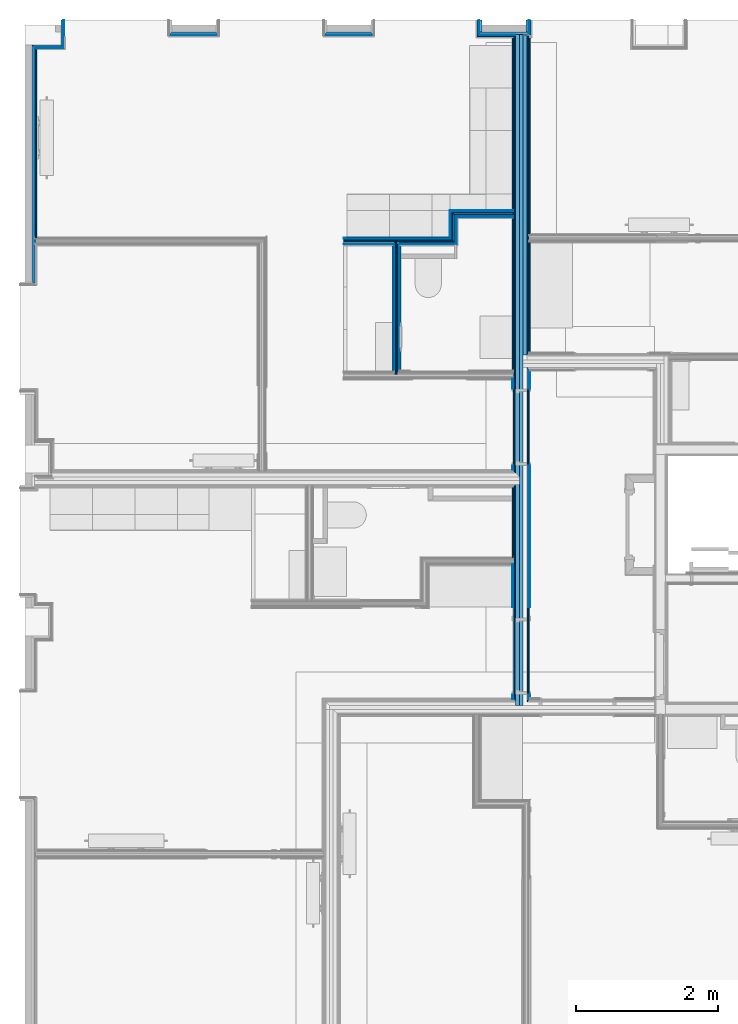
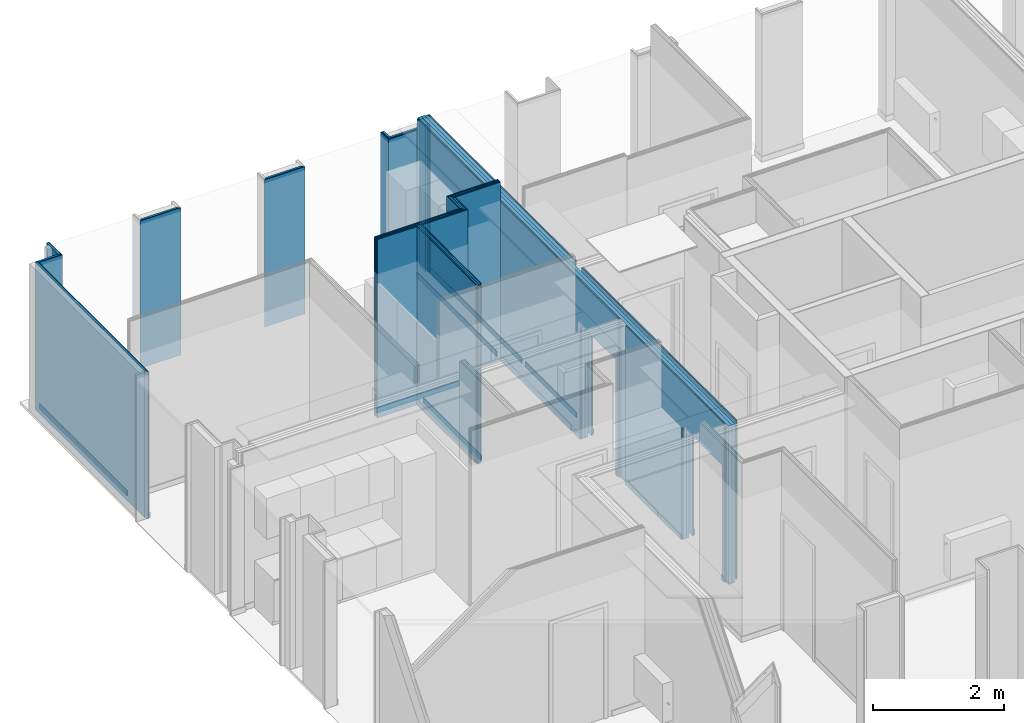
# One storey, part 14 of 64: 63 building element parts, 3 openings, 13 elements without a shape of their own.
"""IFC2X3 building model written with IfcOpenShell, lengths in metres."""

from ifc_helpers import new_model, entity, si_unit, converted_unit, derived_unit, money_unit, direction, frame, frame_2d, origin_with_axes, place, context, subcontext, project, spatial, polyline, rectangle, outline, extrude, material, type_object, element, aggregate, save


model = new_model("IFC2X3")

# Units and contexts
model_context = context("Model", 3, precision=1e-05, world=origin_with_axes(), true_north=direction((0.0, 1.0)))
body_context = subcontext(model_context, "Body", "Model", "MODEL_VIEW", scale=1.0)
ifc_project = project(units=[si_unit("LENGTHUNIT", "METRE"), si_unit("AREAUNIT", "SQUARE_METRE"), si_unit("VOLUMEUNIT", "CUBIC_METRE"), si_unit("ABSORBEDDOSEUNIT", "GRAY"), si_unit("AMOUNTOFSUBSTANCEUNIT", "MOLE"), si_unit("DOSEEQUIVALENTUNIT", "SIEVERT"), si_unit("ELECTRICCAPACITANCEUNIT", "FARAD"), si_unit("ELECTRICCHARGEUNIT", "COULOMB"), si_unit("ELECTRICCONDUCTANCEUNIT", "SIEMENS"), si_unit("ELECTRICCURRENTUNIT", "AMPERE"), si_unit("ELECTRICRESISTANCEUNIT", "OHM"), si_unit("ELECTRICVOLTAGEUNIT", "VOLT"), si_unit("ENERGYUNIT", "JOULE"), si_unit("FORCEUNIT", "NEWTON"), si_unit("FREQUENCYUNIT", "HERTZ"), si_unit("ILLUMINANCEUNIT", "LUX"), si_unit("INDUCTANCEUNIT", "HENRY"), si_unit("LUMINOUSFLUXUNIT", "LUMEN"), si_unit("LUMINOUSINTENSITYUNIT", "CANDELA"), si_unit("MAGNETICFLUXDENSITYUNIT", "TESLA"), si_unit("MAGNETICFLUXUNIT", "WEBER"), si_unit("MASSUNIT", "GRAM"), converted_unit("PLANEANGLEUNIT", "degree", entity("IfcReal", 0.0174532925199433), si_unit("PLANEANGLEUNIT", "RADIAN"), dimensions=[0, 0, 0, 0, 0, 0, 0]), si_unit("POWERUNIT", "WATT"), si_unit("PRESSUREUNIT", "PASCAL"), si_unit("RADIOACTIVITYUNIT", "BECQUEREL"), si_unit("SOLIDANGLEUNIT", "STERADIAN"), si_unit("THERMODYNAMICTEMPERATUREUNIT", "KELVIN"), si_unit("TIMEUNIT", "SECOND"), derived_unit("ACCELERATIONUNIT", [(si_unit("LENGTHUNIT", "METRE"), 1), (si_unit("TIMEUNIT", "SECOND"), -2)]), derived_unit("ANGULARVELOCITYUNIT", [(converted_unit("PLANEANGLEUNIT", "degree", entity("IfcReal", 0.0174532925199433), si_unit("PLANEANGLEUNIT", "RADIAN"), dimensions=[0, 0, 0, 0, 0, 0, 0]), 1), (si_unit("TIMEUNIT", "SECOND"), -1)]), derived_unit("CURVATUREUNIT", [(converted_unit("PLANEANGLEUNIT", "degree", entity("IfcReal", 0.0174532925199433), si_unit("PLANEANGLEUNIT", "RADIAN"), dimensions=[0, 0, 0, 0, 0, 0, 0]), 1), (si_unit("LENGTHUNIT", "METRE"), -1)]), derived_unit("DYNAMICVISCOSITYUNIT", [(si_unit("PRESSUREUNIT", "PASCAL"), 1), (si_unit("TIMEUNIT", "SECOND"), 1)]), derived_unit("HEATFLUXDENSITYUNIT", [(si_unit("POWERUNIT", "WATT"), 1), (si_unit("LENGTHUNIT", "METRE"), -2)]), derived_unit("HEATINGVALUEUNIT", [(si_unit("ENERGYUNIT", "JOULE"), 1), (si_unit("MASSUNIT", "GRAM"), -1)]), derived_unit("INTEGERCOUNTRATEUNIT", [(si_unit("TIMEUNIT", "SECOND"), -1)]), derived_unit("IONCONCENTRATIONUNIT", [(si_unit("MASSUNIT", "GRAM"), 1), (si_unit("VOLUMEUNIT", "CUBIC_METRE"), -1)]), derived_unit("ISOTHERMALMOISTURECAPACITYUNIT", [(si_unit("VOLUMEUNIT", "CUBIC_METRE"), 1), (si_unit("MASSUNIT", "GRAM"), -1)]), derived_unit("KINEMATICVISCOSITYUNIT", [(si_unit("AREAUNIT", "SQUARE_METRE"), 1), (si_unit("TIMEUNIT", "SECOND"), -1)]), derived_unit("LINEARFORCEUNIT", [(si_unit("FORCEUNIT", "NEWTON"), 1), (si_unit("LENGTHUNIT", "METRE"), -1)]), derived_unit("LINEARMOMENTUNIT", [(si_unit("FORCEUNIT", "NEWTON"), 1), (si_unit("LENGTHUNIT", "METRE"), -1)]), derived_unit("LINEARSTIFFNESSUNIT", [(si_unit("FORCEUNIT", "NEWTON"), 1), (si_unit("LENGTHUNIT", "METRE"), -1)]), derived_unit("LINEARVELOCITYUNIT", [(si_unit("LENGTHUNIT", "METRE"), 1), (si_unit("TIMEUNIT", "SECOND"), -1)]), derived_unit("LUMINOUSINTENSITYDISTRIBUTIONUNIT", [(si_unit("LUMINOUSINTENSITYUNIT", "CANDELA"), 1), (si_unit("LUMINOUSFLUXUNIT", "LUMEN"), -1)]), derived_unit("MASSDENSITYUNIT", [(si_unit("MASSUNIT", "GRAM"), 1), (si_unit("VOLUMEUNIT", "CUBIC_METRE"), -1)]), derived_unit("MASSFLOWRATEUNIT", [(si_unit("MASSUNIT", "GRAM"), 1), (si_unit("TIMEUNIT", "SECOND"), -1)]), derived_unit("MASSPERLENGTHUNIT", [(si_unit("MASSUNIT", "GRAM"), 1), (si_unit("LENGTHUNIT", "METRE"), -1)]), derived_unit("MODULUSOFELASTICITYUNIT", [(si_unit("FORCEUNIT", "NEWTON"), 1), (si_unit("AREAUNIT", "SQUARE_METRE"), -1)]), derived_unit("MODULUSOFLINEARSUBGRADEREACTIONUNIT", [(si_unit("FORCEUNIT", "NEWTON"), 1), (si_unit("LENGTHUNIT", "METRE"), -2)]), derived_unit("MODULUSOFROTATIONALSUBGRADEREACTIONUNIT", [(si_unit("FORCEUNIT", "NEWTON"), 1), (si_unit("LENGTHUNIT", "METRE"), 1)]), derived_unit("MODULUSOFSUBGRADEREACTIONUNIT", [(si_unit("FORCEUNIT", "NEWTON"), 1), (si_unit("VOLUMEUNIT", "CUBIC_METRE"), -1)]), derived_unit("MOISTUREDIFFUSIVITYUNIT", [(si_unit("VOLUMEUNIT", "CUBIC_METRE"), 1), (si_unit("TIMEUNIT", "SECOND"), -1)]), derived_unit("MOLECULARWEIGHTUNIT", [(si_unit("MASSUNIT", "GRAM"), 1), (si_unit("AMOUNTOFSUBSTANCEUNIT", "MOLE"), -1)]), derived_unit("PLANARFORCEUNIT", [(si_unit("FORCEUNIT", "NEWTON"), 1), (si_unit("LENGTHUNIT", "METRE"), -2)]), derived_unit("ROTATIONALFREQUENCYUNIT", [(si_unit("TIMEUNIT", "SECOND"), -1)]), derived_unit("ROTATIONALMASSUNIT", [(si_unit("MASSUNIT", "GRAM"), 1), (si_unit("LENGTHUNIT", "METRE"), 2)]), derived_unit("ROTATIONALSTIFFNESSUNIT", [(si_unit("FORCEUNIT", "NEWTON"), 1), (si_unit("LENGTHUNIT", "METRE"), 1), (converted_unit("PLANEANGLEUNIT", "degree", entity("IfcReal", 0.0174532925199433), si_unit("PLANEANGLEUNIT", "RADIAN"), dimensions=[0, 0, 0, 0, 0, 0, 0]), -1)]), derived_unit("SECTIONAREAINTEGRALUNIT", [(si_unit("LENGTHUNIT", "METRE"), 5)]), derived_unit("SECTIONMODULUSUNIT", [(si_unit("LENGTHUNIT", "METRE"), 3)]), derived_unit("SHEARMODULUSUNIT", [(si_unit("FORCEUNIT", "NEWTON"), 1), (si_unit("AREAUNIT", "SQUARE_METRE"), -1)]), derived_unit("SOUNDPOWERUNIT", [(si_unit("ENERGYUNIT", "JOULE"), 1), (si_unit("TIMEUNIT", "SECOND"), -1)]), derived_unit("SPECIFICHEATCAPACITYUNIT", [(si_unit("FORCEUNIT", "NEWTON"), 1), (si_unit("MASSUNIT", "GRAM"), -1), (si_unit("THERMODYNAMICTEMPERATUREUNIT", "KELVIN"), -1)]), derived_unit("TEMPERATUREGRADIENTUNIT", [(si_unit("THERMODYNAMICTEMPERATUREUNIT", "KELVIN"), 1), (si_unit("LENGTHUNIT", "METRE"), -1)]), derived_unit("THERMALADMITTANCEUNIT", [(si_unit("POWERUNIT", "WATT"), 1), (si_unit("AREAUNIT", "SQUARE_METRE"), -1), (si_unit("THERMODYNAMICTEMPERATUREUNIT", "KELVIN"), -1)]), derived_unit("THERMALCONDUCTANCEUNIT", [(si_unit("POWERUNIT", "WATT"), 1), (si_unit("LENGTHUNIT", "METRE"), -1), (si_unit("THERMODYNAMICTEMPERATUREUNIT", "KELVIN"), -1)]), derived_unit("THERMALEXPANSIONCOEFFICIENTUNIT", [(si_unit("THERMODYNAMICTEMPERATUREUNIT", "KELVIN"), -1)]), derived_unit("THERMALRESISTANCEUNIT", [(si_unit("AREAUNIT", "SQUARE_METRE"), 1), (si_unit("POWERUNIT", "WATT"), -1)]), derived_unit("THERMALTRANSMITTANCEUNIT", [(si_unit("POWERUNIT", "WATT"), 1), (si_unit("AREAUNIT", "SQUARE_METRE"), -1), (si_unit("THERMODYNAMICTEMPERATUREUNIT", "KELVIN"), -1)]), derived_unit("TORQUEUNIT", [(si_unit("FORCEUNIT", "NEWTON"), 1), (si_unit("LENGTHUNIT", "METRE"), 1)]), derived_unit("VAPORPERMEABILITYUNIT", [(si_unit("MASSUNIT", "GRAM"), 1), (si_unit("TIMEUNIT", "SECOND"), -1)]), derived_unit("VOLUMETRICFLOWRATEUNIT", [(si_unit("VOLUMEUNIT", "CUBIC_METRE"), 1), (si_unit("TIMEUNIT", "SECOND"), -1)]), derived_unit("WARPINGCONSTANTUNIT", [(si_unit("LENGTHUNIT", "METRE"), 6)]), derived_unit("WARPINGMOMENTUNIT", [(si_unit("FORCEUNIT", "NEWTON"), 1), (si_unit("LENGTHUNIT", "METRE"), 2)]), money_unit("GBP")], contexts=[model_context])

# Site, building, storey
site_placement = place(None, origin_with_axes())
site = spatial("IfcSite", under=ifc_project, at=site_placement, Name="Site", CompositionType="ELEMENT")
building_placement = place(site_placement, origin_with_axes())
building = spatial("IfcBuilding", under=site, at=building_placement, Name="Building01", CompositionType="ELEMENT")
storey_placement = place(building_placement, frame((0.0, 0.0, 8.64), z_axis=(0.0, 0.0, 1.0), x_axis=(1.0, 0.0, 0.0)))
storey = spatial("IfcBuildingStorey", under=building, at=storey_placement, Name="2F", CompositionType="ELEMENT", Elevation=8.64)

# Wall, building element parts
wall_type_1 = type_object("IfcWallType", Name="SHE_A-Walls_Type06d_ExternalWallInsulation_48mm", PredefinedType="NOTDEFINED")
wall_1_placement = place(storey_placement, frame((0.677, 14.8, 0.0), z_axis=(0.0, 0.0, 1.0), x_axis=(0.0, -1.0, 0.0)))
wall_1 = element("IfcWall", 1, at=wall_1_placement, inside=storey, type_object=wall_type_1, Name="6D", ObjectType="SHE_A-Walls_Type06d_ExternalWallInsulation_48mm")
ifc_material_1 = material(Name="A_BSUK_Insulation")
placement_1 = place(wall_1_placement, origin_with_axes())
building_element_part_1 = element("IfcBuildingElementPart", 2, at=placement_1, material=ifc_material_1, Name="1", context=body_context, shape_type="SweptSolid", body=[
    extrude(outline(polyline([(0.386, 0.036), (0.0, 0.036), (0.0, 0.0), (0.35, 0.0), (0.386, 0.036)])), origin_with_axes(), (0.0, 0.0, 1.0), 2.74),
])
ifc_material_2 = material(Name="A_BSUK_WallInternal_Finishes_Plasterboard")
building_element_part_2 = element("IfcBuildingElementPart", 3, at=placement_1, material=ifc_material_2, Name="2", context=body_context, shape_type="SweptSolid", body=[
    extrude(outline(polyline([(0.398, 0.048), (0.0, 0.048), (0.0, 0.035), (0.385, 0.035), (0.398, 0.048)])), origin_with_axes(), (0.0, 0.0, 1.0), 2.74),
])
aggregate(wall_1, [building_element_part_1, building_element_part_2])

wall_2_placement = place(storey_placement, frame((0.677, 14.45, 0.0), z_axis=(0.0, 0.0, 1.0), x_axis=(-1.0, 0.0, 0.0)))
wall_2 = element("IfcWall", 4, at=wall_2_placement, inside=storey, type_object=wall_type_1, Name="6D", ObjectType="SHE_A-Walls_Type06d_ExternalWallInsulation_48mm")
placement_2 = place(wall_2_placement, origin_with_axes())
building_element_part_3 = element("IfcBuildingElementPart", 5, at=placement_2, material=ifc_material_1, Name="1", context=body_context, shape_type="SweptSolid", body=[
    extrude(outline(polyline([(0.371, 0.036), (-0.036, 0.036), (0.0, 0.0), (0.407, 0.0), (0.371, 0.036)])), origin_with_axes(), (0.0, 0.0, 1.0), 2.74),
])
building_element_part_4 = element("IfcBuildingElementPart", 6, at=placement_2, material=ifc_material_2, Name="2", context=body_context, shape_type="SweptSolid", body=[
    extrude(outline(polyline([(0.359, 0.048), (-0.048, 0.048), (-0.035, 0.035), (0.372, 0.035), (0.359, 0.048)])), origin_with_axes(), (0.0, 0.0, 1.0), 2.74),
])
aggregate(wall_2, [building_element_part_3, building_element_part_4])

wall_3_placement = place(storey_placement, frame((2.867, 14.63, 0.0), z_axis=(0.0, 0.0, 1.0), x_axis=(-1.0, 0.0, 0.0)))
wall_3 = element("IfcWall", 7, at=wall_3_placement, inside=storey, type_object=wall_type_1, Name="6D", ObjectType="SHE_A-Walls_Type06d_ExternalWallInsulation_48mm")
placement_3 = place(wall_3_placement, origin_with_axes())
building_element_part_5 = element("IfcBuildingElementPart", 8, at=placement_3, material=ifc_material_1, Name="1", context=body_context, shape_type="SweptSolid", body=[
    extrude(outline(polyline([(0.66, 0.036), (-0.036, 0.036), (0.0, 0.0), (0.624, 0.0), (0.66, 0.036)])), origin_with_axes(), (0.0, 0.0, 1.0), 2.74),
])
building_element_part_6 = element("IfcBuildingElementPart", 9, at=placement_3, material=ifc_material_2, Name="2", context=body_context, shape_type="SweptSolid", body=[
    extrude(outline(polyline([(0.672, 0.048), (-0.048, 0.048), (-0.035, 0.035), (0.659, 0.035), (0.672, 0.048)])), origin_with_axes(), (0.0, 0.0, 1.0), 2.74),
])
aggregate(wall_3, [building_element_part_5, building_element_part_6])

wall_4_placement = place(storey_placement, frame((5.057, 14.63, 0.0), z_axis=(0.0, 0.0, 1.0), x_axis=(-1.0, 0.0, 0.0)))
wall_4 = element("IfcWall", 10, at=wall_4_placement, inside=storey, type_object=wall_type_1, Name="6D", ObjectType="SHE_A-Walls_Type06d_ExternalWallInsulation_48mm")
placement_4 = place(wall_4_placement, origin_with_axes())
building_element_part_7 = element("IfcBuildingElementPart", 11, at=placement_4, material=ifc_material_1, Name="1", context=body_context, shape_type="SweptSolid", body=[
    extrude(outline(polyline([(0.66, 0.036), (-0.036, 0.036), (0.0, 0.0), (0.624, 0.0), (0.66, 0.036)])), origin_with_axes(), (0.0, 0.0, 1.0), 2.74),
])
building_element_part_8 = element("IfcBuildingElementPart", 12, at=placement_4, material=ifc_material_2, Name="2", context=body_context, shape_type="SweptSolid", body=[
    extrude(outline(polyline([(0.672, 0.048), (-0.048, 0.048), (-0.035, 0.035), (0.659, 0.035), (0.672, 0.048)])), origin_with_axes(), (0.0, 0.0, 1.0), 2.74),
])
aggregate(wall_4, [building_element_part_7, building_element_part_8])

wall_5_placement = place(storey_placement, frame((0.27, 14.45, 0.0), z_axis=(0.0, 0.0, 1.0), x_axis=(0.0, -1.0, 0.0)))
wall_5 = element("IfcWall", 13, at=wall_5_placement, inside=storey, type_object=wall_type_1, Name="6D", ObjectType="SHE_A-Walls_Type06d_ExternalWallInsulation_48mm")
placement_5 = place(wall_5_placement, origin_with_axes())
building_element_part_9 = element("IfcBuildingElementPart", 14, at=placement_5, material=ifc_material_1, Name="1", context=body_context, shape_type="SweptSolid", body=[
    extrude(outline(polyline([(3.383, 0.036), (0.036, 0.036), (0.0, 0.0), (3.347, 0.0), (3.383, 0.036)])), origin_with_axes(), (0.0, 0.0, 1.0), 2.74),
])
building_element_part_10 = element("IfcBuildingElementPart", 15, at=placement_5, material=ifc_material_2, Name="2", context=body_context, shape_type="SweptSolid", body=[
    extrude(outline(polyline([(3.395, 0.048), (0.048, 0.048), (0.035, 0.035), (3.382, 0.035), (3.395, 0.048)])), origin_with_axes(), (0.0, 0.0, 1.0), 2.74),
])
ifc_material_3 = material(Name="A_BSUK_Walls_Timber")
building_element_part_11 = element("IfcBuildingElementPart", 16, at=placement_5, material=ifc_material_3, Name="3", context=body_context, shape_type="SweptSolid", body=[
    extrude(outline(polyline([(2.72433, 0.063), (0.063, 0.063), (0.048, 0.048), (2.72433, 0.048), (2.72433, 0.063)])), frame((0.0, 0.0, 0.015), z_axis=(0.0, 0.0, 1.0), x_axis=(1.0, 0.0, 0.0)), (0.0, 0.0, 1.0), 0.1),
])
aggregate(wall_5, [building_element_part_9, building_element_part_10, building_element_part_11])

wall_type_2 = type_object("IfcWallType", Name="SHE_A-Walls_Type05a_Partition_95mm_tall", PredefinedType="NOTDEFINED")
wall_6_placement = place(storey_placement, frame((6.229669, 11.66567, 0.0), z_axis=(0.0, 0.0, 1.0), x_axis=(0.0, 1.0, 0.0)))
wall_6 = element("IfcWall", 17, at=wall_6_placement, inside=storey, type_object=wall_type_2, Name="5A", ObjectType="SHE_A-Walls_Type05a_Partition_95mm_tall")
placement_6 = place(wall_6_placement, origin_with_axes())
building_element_part_12 = element("IfcBuildingElementPart", 18, at=placement_6, material=ifc_material_2, Name="2", context=body_context, shape_type="SweptSolid", body=[
    extrude(outline(polyline([(0.35, -0.023), (-0.023, -0.023), (-0.035, -0.035), (0.35, -0.035), (0.35, -0.023)])), origin_with_axes(), (0.0, 0.0, 1.0), 3.32),
])
ifc_material_4 = material(Name="Air Cavity")
building_element_part_13 = element("IfcBuildingElementPart", 19, at=placement_6, material=ifc_material_4, Name="3", context=body_context, shape_type="SweptSolid", body=[
    extrude(outline(polyline([(0.35, 0.0), (0.0, 0.0), (-0.023, -0.023), (0.35, -0.023), (0.35, 0.0)])), origin_with_axes(), (0.0, 0.0, 1.0), 3.32),
])
building_element_part_14 = element("IfcBuildingElementPart", 20, at=placement_6, material=ifc_material_1, Name="4", context=body_context, shape_type="SweptSolid", body=[
    extrude(outline(polyline([(0.41, 0.025), (0.025, 0.025), (0.0, 0.0), (0.385, 0.0), (0.41, 0.025)])), origin_with_axes(), (0.0, 0.0, 1.0), 3.32),
])
building_element_part_15 = element("IfcBuildingElementPart", 21, at=placement_6, material=ifc_material_4, Name="5", context=body_context, shape_type="SweptSolid", body=[
    extrude(outline(polyline([(0.433, 0.048), (0.048, 0.048), (0.025, 0.025), (0.41, 0.025), (0.433, 0.048)])), origin_with_axes(), (0.0, 0.0, 1.0), 3.32),
])
building_element_part_16 = element("IfcBuildingElementPart", 22, at=placement_6, material=ifc_material_2, Name="6", context=body_context, shape_type="SweptSolid", body=[
    extrude(outline(polyline([(0.445, 0.06), (0.06, 0.06), (0.048, 0.048), (0.433, 0.048), (0.445, 0.06)])), origin_with_axes(), (0.0, 0.0, 1.0), 3.32),
])
aggregate(wall_6, [building_element_part_12, building_element_part_13, building_element_part_14, building_element_part_15, building_element_part_16])

wall_7_placement = place(storey_placement, frame((6.229669, 12.05067, 0.0), z_axis=(0.0, 0.0, 1.0), x_axis=(1.0, 0.0, 0.0)))
wall_7 = element("IfcWall", 23, at=wall_7_placement, inside=storey, type_object=wall_type_2, Name="5A", ObjectType="SHE_A-Walls_Type05a_Partition_95mm_tall")
placement_7 = place(wall_7_placement, origin_with_axes())
building_element_part_17 = element("IfcBuildingElementPart", 24, at=placement_7, material=ifc_material_2, Name="2", context=body_context, shape_type="SweptSolid", body=[
    extrude(rectangle(XDim=0.812, YDim=0.012, at=frame_2d((0.429, -0.029), x_axis=(-1.0, 0.0))), origin_with_axes(), (0.0, 0.0, 1.0), 3.32),
])
building_element_part_18 = element("IfcBuildingElementPart", 25, at=placement_7, material=ifc_material_4, Name="3", context=body_context, shape_type="SweptSolid", body=[
    extrude(rectangle(XDim=0.812, YDim=0.023, at=frame_2d((0.429, -0.0115), x_axis=(-1.0, 0.0))), origin_with_axes(), (0.0, 0.0, 1.0), 3.32),
])
building_element_part_19 = element("IfcBuildingElementPart", 26, at=placement_7, material=ifc_material_1, Name="4", context=body_context, shape_type="SweptSolid", body=[
    extrude(outline(polyline([(0.835, 0.025), (-0.025, 0.025), (0.0, 0.0), (0.835, 0.0), (0.835, 0.025)])), origin_with_axes(), (0.0, 0.0, 1.0), 3.32),
])
building_element_part_20 = element("IfcBuildingElementPart", 27, at=placement_7, material=ifc_material_4, Name="5", context=body_context, shape_type="SweptSolid", body=[
    extrude(outline(polyline([(0.835, 0.048), (-0.048, 0.048), (-0.025, 0.025), (0.835, 0.025), (0.835, 0.048)])), origin_with_axes(), (0.0, 0.0, 1.0), 3.32),
])
building_element_part_21 = element("IfcBuildingElementPart", 28, at=placement_7, material=ifc_material_2, Name="6", context=body_context, shape_type="SweptSolid", body=[
    extrude(outline(polyline([(0.835, 0.06), (-0.06, 0.06), (-0.048, 0.048), (0.835, 0.048), (0.835, 0.06)])), origin_with_axes(), (0.0, 0.0, 1.0), 3.32),
])
aggregate(wall_7, [building_element_part_17, building_element_part_18, building_element_part_19, building_element_part_20, building_element_part_21])

wall_8_placement = place(storey_placement, frame((4.669669, 11.66567, 0.0), z_axis=(0.0, 0.0, 1.0), x_axis=(1.0, 0.0, 0.0)))
wall_8 = element("IfcWall", 29, at=wall_8_placement, inside=storey, type_object=wall_type_2, Name="5A", ObjectType="SHE_A-Walls_Type05a_Partition_95mm_tall")
placement_8 = place(wall_8_placement, origin_with_axes())
building_element_part_22 = element("IfcBuildingElementPart", 30, at=placement_8, material=ifc_material_2, Name="3", context=body_context, shape_type="SweptSolid", body=[
    extrude(rectangle(XDim=0.712, YDim=0.012, at=frame_2d((0.356, -0.029), x_axis=(-1.0, 0.0))), origin_with_axes(), (0.0, 0.0, 1.0), 3.32),
])
building_element_part_23 = element("IfcBuildingElementPart", 31, at=placement_8, material=ifc_material_2, Name="4", context=body_context, shape_type="SweptSolid", body=[
    extrude(outline(polyline([(1.583, -0.023), (0.783, -0.023), (0.783, -0.035), (1.595, -0.035), (1.583, -0.023)])), origin_with_axes(), (0.0, 0.0, 1.0), 3.32),
])
building_element_part_24 = element("IfcBuildingElementPart", 32, at=placement_8, material=ifc_material_4, Name="5", context=body_context, shape_type="SweptSolid", body=[
    extrude(outline(polyline([(1.56, 0.0), (0.783, 0.0), (0.783, -0.023), (1.583, -0.023), (1.56, 0.0)])), origin_with_axes(), (0.0, 0.0, 1.0), 3.32),
])
building_element_part_25 = element("IfcBuildingElementPart", 33, at=placement_8, material=ifc_material_1, Name="6", context=body_context, shape_type="SweptSolid", body=[
    extrude(outline(polyline([(1.535, 0.025), (0.0, 0.025), (0.0, 0.0), (1.56, 0.0), (1.535, 0.025)])), origin_with_axes(), (0.0, 0.0, 1.0), 3.32),
])
building_element_part_26 = element("IfcBuildingElementPart", 34, at=placement_8, material=ifc_material_4, Name="7", context=body_context, shape_type="SweptSolid", body=[
    extrude(outline(polyline([(1.512, 0.048), (0.0, 0.048), (0.0, 0.025), (1.535, 0.025), (1.512, 0.048)])), origin_with_axes(), (0.0, 0.0, 1.0), 3.32),
])
building_element_part_27 = element("IfcBuildingElementPart", 35, at=placement_8, material=ifc_material_2, Name="8", context=body_context, shape_type="SweptSolid", body=[
    extrude(outline(polyline([(1.5, 0.06), (0.0, 0.06), (0.0, 0.048), (1.512, 0.048), (1.5, 0.06)])), origin_with_axes(), (0.0, 0.0, 1.0), 3.32),
])
building_element_part_28 = element("IfcBuildingElementPart", 36, at=placement_8, material=ifc_material_3, Name="9", context=body_context, shape_type="SweptSolid", body=[
    extrude(outline(polyline([(1.485, 0.075), (0.05, 0.075), (0.05, 0.06), (1.5, 0.06), (1.485, 0.075)])), frame((0.0, 0.0, 0.015), z_axis=(0.0, 0.0, 1.0), x_axis=(1.0, 0.0, 0.0)), (0.0, 0.0, 1.0), 0.1),
])
aggregate(wall_8, [building_element_part_22, building_element_part_23, building_element_part_24, building_element_part_25, building_element_part_26, building_element_part_27, building_element_part_28])

wall_9_placement = place(storey_placement, frame((5.429669, 9.79567, 0.0), z_axis=(0.0, 0.0, 1.0), x_axis=(0.0, 1.0, 0.0)))
wall_9 = element("IfcWall", 37, at=wall_9_placement, inside=storey, type_object=wall_type_2, Name="5A", ObjectType="SHE_A-Walls_Type05a_Partition_95mm_tall")
placement_9 = place(wall_9_placement, origin_with_axes())
building_element_part_29 = element("IfcBuildingElementPart", 38, at=placement_9, material=ifc_material_3, Name="1", context=body_context, shape_type="SweptSolid", body=[
    extrude(rectangle(XDim=1.77, YDim=0.015, at=frame_2d((0.935, -0.0425), x_axis=(-1.0, 0.0))), frame((0.0, 0.0, 0.015), z_axis=(0.0, 0.0, 1.0), x_axis=(1.0, 0.0, 0.0)), (0.0, 0.0, 1.0), 0.1),
])
building_element_part_30 = element("IfcBuildingElementPart", 39, at=placement_9, material=ifc_material_2, Name="2", context=body_context, shape_type="SweptSolid", body=[
    extrude(rectangle(XDim=1.8, YDim=0.012, at=frame_2d((0.935, -0.029), x_axis=(-1.0, 0.0))), origin_with_axes(), (0.0, 0.0, 1.0), 3.32),
])
building_element_part_31 = element("IfcBuildingElementPart", 40, at=placement_9, material=ifc_material_4, Name="3", context=body_context, shape_type="SweptSolid", body=[
    extrude(rectangle(XDim=1.8, YDim=0.023, at=frame_2d((0.935, -0.0115), x_axis=(-1.0, 0.0))), origin_with_axes(), (0.0, 0.0, 1.0), 3.32),
])
building_element_part_32 = element("IfcBuildingElementPart", 41, at=placement_9, material=ifc_material_1, Name="4", context=body_context, shape_type="SweptSolid", body=[
    extrude(rectangle(XDim=1.87, YDim=0.025, at=frame_2d((0.935, 0.0125), x_axis=(-1.0, 0.0))), origin_with_axes(), (0.0, 0.0, 1.0), 3.32),
])
building_element_part_33 = element("IfcBuildingElementPart", 42, at=placement_9, material=ifc_material_4, Name="5", context=body_context, shape_type="SweptSolid", body=[
    extrude(rectangle(XDim=1.87, YDim=0.023, at=frame_2d((0.935, 0.0365), x_axis=(-1.0, 0.0))), origin_with_axes(), (0.0, 0.0, 1.0), 3.32),
])
building_element_part_34 = element("IfcBuildingElementPart", 43, at=placement_9, material=ifc_material_2, Name="6", context=body_context, shape_type="SweptSolid", body=[
    extrude(rectangle(XDim=1.8, YDim=0.012, at=frame_2d((0.935, 0.054), x_axis=(-1.0, 0.0))), origin_with_axes(), (0.0, 0.0, 1.0), 3.32),
])
building_element_part_35 = element("IfcBuildingElementPart", 44, at=placement_9, material=ifc_material_3, Name="7", context=body_context, shape_type="SweptSolid", body=[
    extrude(rectangle(XDim=1.77, YDim=0.015, at=frame_2d((0.935, 0.0675), x_axis=(-1.0, 0.0))), frame((0.0, 0.0, 0.015), z_axis=(0.0, 0.0, 1.0), x_axis=(1.0, 0.0, 0.0)), (0.0, 0.0, 1.0), 0.1),
])
aggregate(wall_9, [building_element_part_29, building_element_part_30, building_element_part_31, building_element_part_32, building_element_part_33, building_element_part_34, building_element_part_35])

# Wall, openings, building element parts
wall_type_3 = type_object("IfcWallType", Name="SHE_A-Walls_Type01c_Partywall_225mm_twin_tall", PredefinedType="NOTDEFINED")
wall_10_placement = place(storey_placement, frame((7.201669, 5.117, 0.0), z_axis=(0.0, 0.0, 1.0), x_axis=(0.0, 1.0, 0.0)))
wall_10 = element("IfcWall", 45, at=wall_10_placement, inside=storey, type_object=wall_type_3, Name="1C", ObjectType="SHE_A-Walls_Type01c_Partywall_225mm_twin_tall")
opening_1_placement = place(wall_10_placement, frame((0.307475, -0.103, -0.03), z_axis=(0.0, 0.0, 1.0), x_axis=(1.0, 0.0, 0.0)))
element("IfcOpeningElement", 46, at=opening_1_placement, cuts=wall_10, Name="Opening", ObjectType="Opening", context=body_context, shape_type="SweptSolid", body=[
    extrude(rectangle(XDim=1.084, YDim=2.142, at=frame_2d((-0.542, 1.071), x_axis=(-1.0, 0.0))), frame((0.0, 0.0, 0.0), z_axis=(0.0, 1.0, 0.0), x_axis=(-1.0, 0.0, 0.0)), (0.0, 0.0, 1.0), 0.255),
])
opening_2_placement = place(wall_10_placement, frame((3.391704, -0.103, 0.0), z_axis=(0.0, 0.0, 1.0), x_axis=(1.0, 0.0, 0.0)))
element("IfcOpeningElement", 47, at=opening_2_placement, cuts=wall_10, Name="Opening", ObjectType="Opening", context=body_context, shape_type="SweptSolid", body=[
    extrude(rectangle(XDim=2.142, YDim=1.084, at=frame_2d((-0.542, 1.071), x_axis=(0.0, -1.0))), frame((0.0, 0.0, 0.0), z_axis=(0.0, 1.0, 0.0), x_axis=(-1.0, 0.0, 0.0)), (0.0, 0.0, 1.0), 0.255),
])
opening_3_placement = place(wall_10_placement, frame((0.157475, -0.103, 0.0), z_axis=(0.0, 0.0, 1.0), x_axis=(1.0, 0.0, 0.0)))
element("IfcOpeningElement", 48, at=opening_3_placement, cuts=wall_10, Name="Opening", ObjectType="Opening", context=body_context, shape_type="SweptSolid", body=[
    extrude(rectangle(XDim=2.142, YDim=1.084, at=frame_2d((-0.542, 1.071), x_axis=(0.0, -1.0))), frame((0.0, 0.0, 0.0), z_axis=(0.0, 1.0, 0.0), x_axis=(-1.0, 0.0, 0.0)), (0.0, 0.0, 1.0), 0.255),
])
placement_10 = place(wall_10_placement, origin_with_axes())
building_element_part_36 = element("IfcBuildingElementPart", 49, at=placement_10, material=ifc_material_3, Name="1", context=body_context, shape_type="SweptSolid", body=[
    extrude(rectangle(XDim=4.657704, YDim=0.015, at=frame_2d((2.416852, -0.0955), x_axis=(-1.0, 0.0))), frame((0.0, 0.0, 0.015), z_axis=(0.0, 0.0, 1.0), x_axis=(1.0, 0.0, 0.0)), (0.0, 0.0, 1.0), 0.1),
])
building_element_part_37 = element("IfcBuildingElementPart", 50, at=placement_10, material=ifc_material_3, Name="2", context=body_context, shape_type="SweptSolid", body=[
    extrude(rectangle(XDim=1.56542, YDim=0.015, at=frame_2d((5.768414, -0.0955), x_axis=(-1.0, 0.0))), frame((0.0, 0.0, 0.015), z_axis=(0.0, 0.0, 1.0), x_axis=(1.0, 0.0, 0.0)), (0.0, 0.0, 1.0), 0.1),
])
building_element_part_38 = element("IfcBuildingElementPart", 51, at=placement_10, material=ifc_material_3, Name="3", context=body_context, shape_type="SweptSolid", body=[
    extrude(rectangle(XDim=2.788876, YDim=0.015, at=frame_2d((8.040562, -0.0955), x_axis=(-1.0, 0.0))), frame((0.0, 0.0, 0.015), z_axis=(0.0, 0.0, 1.0), x_axis=(1.0, 0.0, 0.0)), (0.0, 0.0, 1.0), 0.1),
])
building_element_part_39 = element("IfcBuildingElementPart", 52, at=placement_10, material=ifc_material_2, Name="4", context=body_context, shape_type="SweptSolid", body=[
    extrude(rectangle(XDim=4.687704, YDim=0.015, at=frame_2d((2.416852, -0.0805), x_axis=(-1.0, 0.0))), origin_with_axes(), (0.0, 0.0, 1.0), 2.95),
])
building_element_part_40 = element("IfcBuildingElementPart", 53, at=placement_10, material=ifc_material_2, Name="5", context=body_context, shape_type="SweptSolid", body=[
    extrude(rectangle(XDim=4.494296, YDim=0.015, at=frame_2d((7.217852, -0.0805), x_axis=(-1.0, 0.0))), origin_with_axes(), (0.0, 0.0, 1.0), 2.95),
])
building_element_part_41 = element("IfcBuildingElementPart", 54, at=placement_10, material=ifc_material_2, Name="6", context=body_context, shape_type="SweptSolid", body=[
    extrude(rectangle(XDim=4.717704, YDim=0.015, at=frame_2d((2.416852, -0.0655), x_axis=(-1.0, 0.0))), origin_with_axes(), (0.0, 0.0, 1.0), 2.95),
])
building_element_part_42 = element("IfcBuildingElementPart", 55, at=placement_10, material=ifc_material_2, Name="7", context=body_context, shape_type="SweptSolid", body=[
    extrude(rectangle(XDim=4.509296, YDim=0.015, at=frame_2d((7.210352, -0.0655), x_axis=(-1.0, 0.0))), origin_with_axes(), (0.0, 0.0, 1.0), 2.95),
])
building_element_part_43 = element("IfcBuildingElementPart", 56, at=placement_10, material=ifc_material_4, Name="8", context=body_context, shape_type="SweptSolid", body=[
    extrude(rectangle(XDim=4.509296, YDim=0.058, at=frame_2d((7.210352, -0.029), x_axis=(-1.0, 0.0))), origin_with_axes(), (0.0, 0.0, 1.0), 2.95),
])
building_element_part_44 = element("IfcBuildingElementPart", 57, at=placement_10, material=ifc_material_1, Name="9", context=body_context, shape_type="SweptSolid", body=[
    extrude(rectangle(XDim=9.477, YDim=0.05, at=frame_2d((4.7385, 0.025), x_axis=(-1.0, 0.0))), origin_with_axes(), (0.0, 0.0, 1.0), 2.95),
])
building_element_part_45 = element("IfcBuildingElementPart", 58, at=placement_10, material=ifc_material_4, Name="10", context=body_context, shape_type="SweptSolid", body=[
    extrude(rectangle(XDim=9.477, YDim=0.057, at=frame_2d((4.7385, 0.0785), x_axis=(-1.0, 0.0))), origin_with_axes(), (0.0, 0.0, 1.0), 2.95),
])
building_element_part_46 = element("IfcBuildingElementPart", 59, at=placement_10, material=ifc_material_2, Name="11", context=body_context, shape_type="SweptSolid", body=[
    extrude(rectangle(XDim=3.03567, YDim=0.015, at=frame_2d((1.590835, 0.1145), x_axis=(-1.0, 0.0))), origin_with_axes(), (0.0, 0.0, 1.0), 2.95),
])
building_element_part_47 = element("IfcBuildingElementPart", 60, at=placement_10, material=ifc_material_2, Name="12", context=body_context, shape_type="SweptSolid", body=[
    extrude(outline(polyline([(9.465, 0.122), (3.30367, 0.122), (3.28867, 0.107), (9.465, 0.107), (9.465, 0.122)])), origin_with_axes(), (0.0, 0.0, 1.0), 2.95),
])
building_element_part_48 = element("IfcBuildingElementPart", 61, at=placement_10, material=ifc_material_2, Name="13", context=body_context, shape_type="SweptSolid", body=[
    extrude(rectangle(XDim=3.00567, YDim=0.015, at=frame_2d((1.590835, 0.1295), x_axis=(-1.0, 0.0))), origin_with_axes(), (0.0, 0.0, 1.0), 2.95),
])
building_element_part_49 = element("IfcBuildingElementPart", 62, at=placement_10, material=ifc_material_2, Name="14", context=body_context, shape_type="SweptSolid", body=[
    extrude(outline(polyline([(9.45, 0.137), (3.31867, 0.137), (3.30367, 0.122), (9.45, 0.122), (9.45, 0.137)])), origin_with_axes(), (0.0, 0.0, 1.0), 2.95),
])
building_element_part_50 = element("IfcBuildingElementPart", 63, at=placement_10, material=ifc_material_3, Name="15", context=body_context, shape_type="SweptSolid", body=[
    extrude(rectangle(XDim=1.906475, YDim=0.015, at=frame_2d((1.041238, 0.1445), x_axis=(-1.0, 0.0))), frame((0.0, 0.0, 0.015), z_axis=(0.0, 0.0, 1.0), x_axis=(1.0, 0.0, 0.0)), (0.0, 0.0, 1.0), 0.1),
])
building_element_part_51 = element("IfcBuildingElementPart", 64, at=placement_10, material=ifc_material_3, Name="16", context=body_context, shape_type="SweptSolid", body=[
    extrude(rectangle(XDim=1.285, YDim=0.015, at=frame_2d((3.97617, 0.1445), x_axis=(-1.0, 0.0))), frame((0.0, 0.0, 0.015), z_axis=(0.0, 0.0, 1.0), x_axis=(1.0, 0.0, 0.0)), (0.0, 0.0, 1.0), 0.1),
])
building_element_part_52 = element("IfcBuildingElementPart", 65, at=placement_10, material=ifc_material_3, Name="17", context=body_context, shape_type="SweptSolid", body=[
    extrude(rectangle(XDim=2.44133, YDim=0.015, at=frame_2d((8.214335, 0.1445), x_axis=(-1.0, 0.0))), frame((0.0, 0.0, 0.015), z_axis=(0.0, 0.0, 1.0), x_axis=(1.0, 0.0, 0.0)), (0.0, 0.0, 1.0), 0.1),
])
building_element_part_53 = element("IfcBuildingElementPart", 66, at=placement_10, material=ifc_material_3, Name="18", context=body_context, shape_type="SweptSolid", body=[
    extrude(rectangle(XDim=2.155, YDim=0.015, at=frame_2d((5.80617, 0.1445), x_axis=(-1.0, 0.0))), frame((0.0, 0.0, 0.015), z_axis=(0.0, 0.0, 1.0), x_axis=(1.0, 0.0, 0.0)), (0.0, 0.0, 1.0), 0.1),
])
building_element_part_54 = element("IfcBuildingElementPart", 67, at=placement_10, material=ifc_material_3, Name="19", context=body_context, shape_type="SweptSolid", body=[
    extrude(rectangle(XDim=0.989195, YDim=0.015, at=frame_2d((2.584072, 0.1445), x_axis=(-1.0, 0.0))), frame((0.0, 0.0, 0.015), z_axis=(0.0, 0.0, 1.0), x_axis=(1.0, 0.0, 0.0)), (0.0, 0.0, 1.0), 0.1),
])
aggregate(wall_10, [building_element_part_36, building_element_part_37, building_element_part_38, building_element_part_39, building_element_part_40, building_element_part_41, building_element_part_42, building_element_part_43, building_element_part_44, building_element_part_45, building_element_part_46, building_element_part_47, building_element_part_48, building_element_part_49, building_element_part_50, building_element_part_51, building_element_part_52, building_element_part_53, building_element_part_54])

# Wall, building element parts
wall_type_4 = type_object("IfcWallType", Name="SHE_A-Walls_Type06f_ExternalWallInsulation_48+15mm", PredefinedType="NOTDEFINED")
wall_11_placement = place(storey_placement, frame((7.247, 14.63, 0.0), z_axis=(0.0, 0.0, 1.0), x_axis=(0.0, 1.0, 0.0)))
wall_11 = element("IfcWall", 68, at=wall_11_placement, inside=storey, type_object=wall_type_4, Name="6F", ObjectType="SHE_A-Walls_Type06f_ExternalWallInsulation_48+15mm")
placement_11 = place(wall_11_placement, origin_with_axes())
building_element_part_55 = element("IfcBuildingElementPart", 69, at=placement_11, material=ifc_material_2, Name="2", context=body_context, shape_type="SweptSolid", body=[
    extrude(rectangle(XDim=0.218, YDim=0.015, at=frame_2d((0.061, -0.0555), x_axis=(-1.0, 0.0))), origin_with_axes(), (0.0, 0.0, 1.0), 2.74),
])
building_element_part_56 = element("IfcBuildingElementPart", 70, at=placement_11, material=ifc_material_2, Name="3", context=body_context, shape_type="SweptSolid", body=[
    extrude(rectangle(XDim=0.218, YDim=0.012, at=frame_2d((0.061, -0.042), x_axis=(-1.0, 0.0))), origin_with_axes(), (0.0, 0.0, 1.0), 2.74),
])
building_element_part_57 = element("IfcBuildingElementPart", 71, at=placement_11, material=ifc_material_1, Name="4", context=body_context, shape_type="SweptSolid", body=[
    extrude(rectangle(XDim=0.17, YDim=0.036, at=frame_2d((0.085, -0.018), x_axis=(-1.0, 0.0))), origin_with_axes(), (0.0, 0.0, 1.0), 2.74),
])
aggregate(wall_11, [building_element_part_55, building_element_part_56, building_element_part_57])

wall_12_placement = place(storey_placement, frame((6.622876, 14.63, 0.0), z_axis=(0.0, 0.0, 1.0), x_axis=(0.0, 1.0, 0.0)))
wall_12 = element("IfcWall", 72, at=wall_12_placement, inside=storey, type_object=wall_type_4, Name="6F", ObjectType="SHE_A-Walls_Type06f_ExternalWallInsulation_48+15mm")
placement_12 = place(wall_12_placement, origin_with_axes())
building_element_part_58 = element("IfcBuildingElementPart", 73, at=placement_12, material=ifc_material_1, Name="1", context=body_context, shape_type="SweptSolid", body=[
    extrude(rectangle(XDim=0.17, YDim=0.036, at=frame_2d((0.085, 0.018), x_axis=(-1.0, 0.0))), origin_with_axes(), (0.0, 0.0, 1.0), 2.74),
])
building_element_part_59 = element("IfcBuildingElementPart", 74, at=placement_12, material=ifc_material_2, Name="2", context=body_context, shape_type="SweptSolid", body=[
    extrude(rectangle(XDim=0.206, YDim=0.012, at=frame_2d((0.067, 0.042), x_axis=(-1.0, 0.0))), origin_with_axes(), (0.0, 0.0, 1.0), 2.74),
])
building_element_part_60 = element("IfcBuildingElementPart", 75, at=placement_12, material=ifc_material_2, Name="3", context=body_context, shape_type="SweptSolid", body=[
    extrude(outline(polyline([(0.17, 0.063), (-0.063, 0.063), (-0.048, 0.048), (0.17, 0.048), (0.17, 0.063)])), origin_with_axes(), (0.0, 0.0, 1.0), 2.74),
])
aggregate(wall_12, [building_element_part_58, building_element_part_59, building_element_part_60])

wall_13_placement = place(storey_placement, frame((7.283, 14.63, 0.0), z_axis=(0.0, 0.0, 1.0), x_axis=(-1.0, 0.0, 0.0)))
wall_13 = element("IfcWall", 76, at=wall_13_placement, inside=storey, type_object=wall_type_4, Name="6F", ObjectType="SHE_A-Walls_Type06f_ExternalWallInsulation_48+15mm")
placement_13 = place(wall_13_placement, origin_with_axes())
building_element_part_61 = element("IfcBuildingElementPart", 77, at=placement_13, material=ifc_material_1, Name="1", context=body_context, shape_type="SweptSolid", body=[
    extrude(rectangle(XDim=0.696124, YDim=0.036, at=frame_2d((0.348062, 0.018), x_axis=(-1.0, 0.0))), origin_with_axes(), (0.0, 0.0, 1.0), 2.74),
])
building_element_part_62 = element("IfcBuildingElementPart", 78, at=placement_13, material=ifc_material_2, Name="3", context=body_context, shape_type="SweptSolid", body=[
    extrude(rectangle(XDim=0.519793, YDim=0.012, at=frame_2d((0.448228, 0.042), x_axis=(-1.0, 0.0))), origin_with_axes(), (0.0, 0.0, 1.0), 2.74),
])
building_element_part_63 = element("IfcBuildingElementPart", 79, at=placement_13, material=ifc_material_2, Name="5", context=body_context, shape_type="SweptSolid", body=[
    extrude(outline(polyline([(0.723124, 0.063), (0.203331, 0.063), (0.203331, 0.048), (0.708124, 0.048), (0.723124, 0.063)])), origin_with_axes(), (0.0, 0.0, 1.0), 2.74),
])
aggregate(wall_13, [building_element_part_61, building_element_part_62, building_element_part_63])

save(model, "model.ifc")
